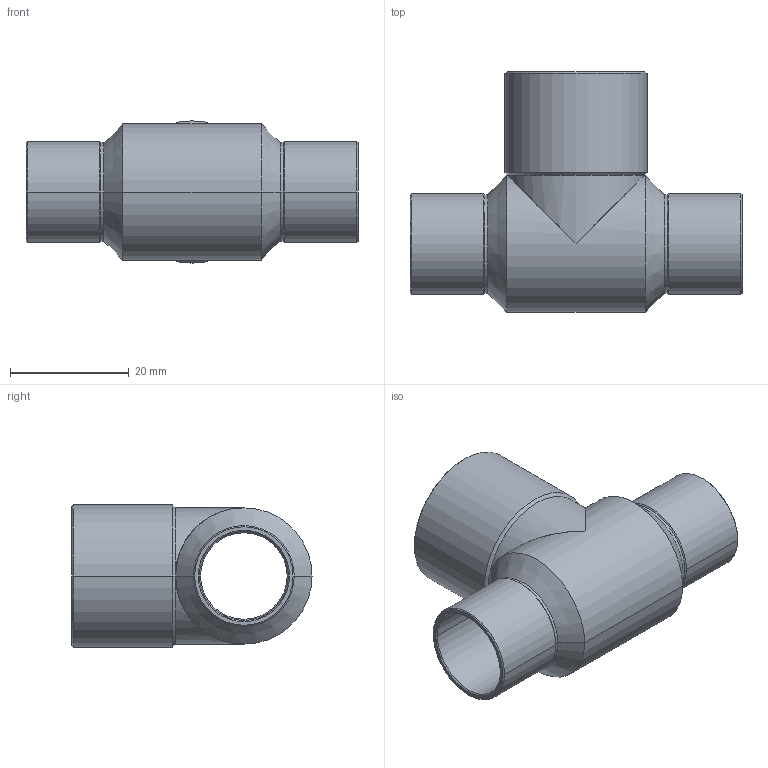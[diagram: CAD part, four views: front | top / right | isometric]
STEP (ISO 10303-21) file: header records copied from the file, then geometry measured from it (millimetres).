
FILE_DESCRIPTION((''),'2;1');
FILE_NAME('P:\Bouwmaten\z-maattekeningen 3D\5000\5130\5130152215.stp','2005-10-26T11:52:59',('Kris'),(''),'Autodesk Inventor 8','Autodesk Inventor 8','');
FILE_SCHEMA(('AUTOMOTIVE_DESIGN { 1 0 10303 214 1 1 1 1 }'));
Length unit declared in the file: millimetre
Products named in the file (1): 5130152215
Bounding box: 56 x 40.5 x 24 mm (x, y, z)
Volume: 4539.8 mm3; surface area: 9262.5 mm2
Topology: 1 solids, 1 shells, 71 faces, 160 edges, 82 vertices
Faces by surface type: cylinder 32, cone 32, bspline 4, plane 3
Entity records: 2329 total; most frequent: CARTESIAN_POINT 734, DIRECTION 372, ORIENTED_EDGE 304, AXIS2_PLACEMENT_3D 156, EDGE_CURVE 152, VERTEX_POINT 82, EDGE_LOOP 74, FACE_OUTER_BOUND 71
